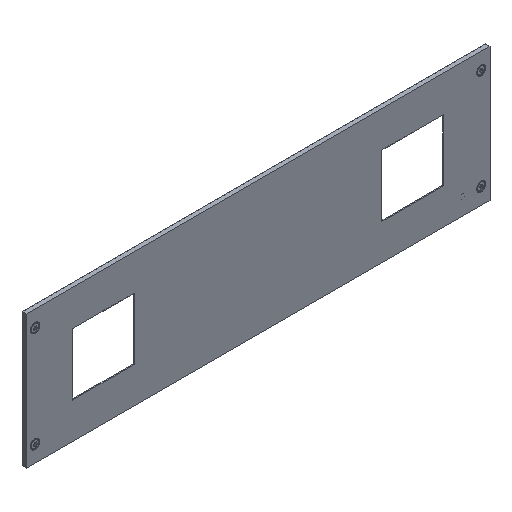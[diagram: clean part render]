
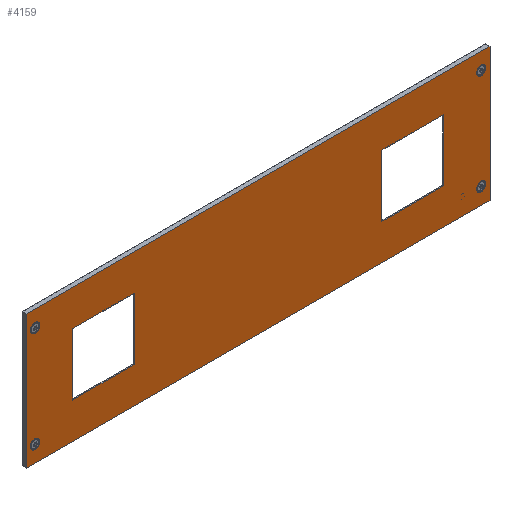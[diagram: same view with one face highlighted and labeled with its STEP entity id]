
A CAD part, isometric view. The second image highlights one B-rep face of the part: STEP entity #4159.
In plain terms, the highlighted planar face has unit normal (0, -1, 0).
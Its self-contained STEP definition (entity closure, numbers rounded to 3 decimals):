
#192=LINE('',#5749,#436);
#196=LINE('',#5758,#440);
#199=LINE('',#5764,#443);
#201=LINE('',#5767,#445);
#209=LINE('',#5811,#453);
#213=LINE('',#5819,#457);
#216=LINE('',#5825,#460);
#218=LINE('',#5828,#462);
#220=LINE('',#5835,#464);
#222=LINE('',#5839,#466);
#225=LINE('',#5845,#469);
#226=LINE('',#5847,#470);
#436=VECTOR('',#4825,1000.);
#440=VECTOR('',#4831,1000.);
#443=VECTOR('',#4836,1000.);
#445=VECTOR('',#4840,1000.);
#453=VECTOR('',#4890,1000.);
#457=VECTOR('',#4896,1000.);
#460=VECTOR('',#4901,1000.);
#462=VECTOR('',#4905,1000.);
#464=VECTOR('',#4913,1000.);
#466=VECTOR('',#4917,1000.);
#469=VECTOR('',#4922,1000.);
#470=VECTOR('',#4925,1000.);
#881=ORIENTED_EDGE('',*,*,#1558,.T.);
#882=ORIENTED_EDGE('',*,*,#1557,.T.);
#883=ORIENTED_EDGE('',*,*,#1554,.T.);
#884=ORIENTED_EDGE('',*,*,#1552,.T.);
#885=ORIENTED_EDGE('',*,*,#1559,.T.);
#886=ORIENTED_EDGE('',*,*,#1560,.T.);
#887=ORIENTED_EDGE('',*,*,#1561,.T.);
#888=ORIENTED_EDGE('',*,*,#1562,.T.);
#889=ORIENTED_EDGE('',*,*,#1547,.F.);
#890=ORIENTED_EDGE('',*,*,#1549,.F.);
#891=ORIENTED_EDGE('',*,*,#1540,.F.);
#892=ORIENTED_EDGE('',*,*,#1544,.F.);
#893=ORIENTED_EDGE('',*,*,#1518,.T.);
#894=ORIENTED_EDGE('',*,*,#1520,.T.);
#895=ORIENTED_EDGE('',*,*,#1511,.T.);
#896=ORIENTED_EDGE('',*,*,#1515,.T.);
#1511=EDGE_CURVE('',#1886,#1885,#192,.T.);
#1515=EDGE_CURVE('',#1885,#1889,#196,.T.);
#1518=EDGE_CURVE('',#1889,#1891,#199,.T.);
#1520=EDGE_CURVE('',#1891,#1886,#201,.T.);
#1540=EDGE_CURVE('',#1906,#1907,#209,.T.);
#1544=EDGE_CURVE('',#1909,#1906,#213,.T.);
#1547=EDGE_CURVE('',#1911,#1909,#216,.T.);
#1549=EDGE_CURVE('',#1907,#1911,#218,.T.);
#1552=EDGE_CURVE('',#1914,#1913,#220,.T.);
#1554=EDGE_CURVE('',#1915,#1914,#222,.T.);
#1557=EDGE_CURVE('',#1916,#1915,#225,.T.);
#1558=EDGE_CURVE('',#1913,#1916,#226,.T.);
#1559=EDGE_CURVE('',#1917,#1917,#2145,.T.);
#1560=EDGE_CURVE('',#1918,#1918,#2146,.T.);
#1561=EDGE_CURVE('',#1919,#1919,#2147,.T.);
#1562=EDGE_CURVE('',#1920,#1920,#2148,.T.);
#1885=VERTEX_POINT('',#5748);
#1886=VERTEX_POINT('',#5750);
#1889=VERTEX_POINT('',#5757);
#1891=VERTEX_POINT('',#5763);
#1906=VERTEX_POINT('',#5810);
#1907=VERTEX_POINT('',#5812);
#1909=VERTEX_POINT('',#5818);
#1911=VERTEX_POINT('',#5824);
#1913=VERTEX_POINT('',#5834);
#1914=VERTEX_POINT('',#5836);
#1915=VERTEX_POINT('',#5840);
#1916=VERTEX_POINT('',#5844);
#1917=VERTEX_POINT('',#5850);
#1918=VERTEX_POINT('',#5852);
#1919=VERTEX_POINT('',#5854);
#1920=VERTEX_POINT('',#5856);
#2145=CIRCLE('',#4389,6.932);
#2146=CIRCLE('',#4390,6.932);
#2147=CIRCLE('',#4391,6.932);
#2148=CIRCLE('',#4392,6.932);
#2333=EDGE_LOOP('',(#881,#882,#883,#884));
#2334=EDGE_LOOP('',(#885));
#2335=EDGE_LOOP('',(#886));
#2336=EDGE_LOOP('',(#887));
#2337=EDGE_LOOP('',(#888));
#2338=EDGE_LOOP('',(#889,#890,#891,#892));
#2339=EDGE_LOOP('',(#893,#894,#895,#896));
#2580=FACE_BOUND('',#2333,.T.);
#2581=FACE_BOUND('',#2334,.T.);
#2582=FACE_BOUND('',#2335,.T.);
#2583=FACE_BOUND('',#2336,.T.);
#2584=FACE_BOUND('',#2337,.T.);
#2585=FACE_BOUND('',#2338,.T.);
#2586=FACE_BOUND('',#2339,.T.);
#2788=PLANE('',#4388);
#4159=ADVANCED_FACE('',(#2580,#2581,#2582,#2583,#2584,#2585,#2586),#2788,
 .F.);
#4388=AXIS2_PLACEMENT_3D('',#5848,#4926,#4927);
#4389=AXIS2_PLACEMENT_3D('',#5849,#4928,#4929);
#4390=AXIS2_PLACEMENT_3D('',#5851,#4930,#4931);
#4391=AXIS2_PLACEMENT_3D('',#5853,#4932,#4933);
#4392=AXIS2_PLACEMENT_3D('',#5855,#4934,#4935);
#4825=DIRECTION('',(0.,0.,1.));
#4831=DIRECTION('',(1.,0.,0.));
#4836=DIRECTION('',(0.,0.,-1.));
#4840=DIRECTION('',(-1.,0.,0.));
#4890=DIRECTION('',(-1.,0.,0.));
#4896=DIRECTION('',(0.,0.,1.));
#4901=DIRECTION('',(1.,0.,0.));
#4905=DIRECTION('',(0.,0.,-1.));
#4913=DIRECTION('',(1.,0.,0.));
#4917=DIRECTION('',(0.,0.,-1.));
#4922=DIRECTION('',(-1.,0.,0.));
#4925=DIRECTION('',(0.,0.,1.));
#4926=DIRECTION('',(0.,1.,0.));
#4927=DIRECTION('',(0.,0.,1.));
#4928=DIRECTION('',(0.,1.,0.));
#4929=DIRECTION('',(0.,0.,1.));
#4930=DIRECTION('',(0.,1.,0.));
#4931=DIRECTION('',(0.,0.,1.));
#4932=DIRECTION('',(0.,1.,0.));
#4933=DIRECTION('',(0.,0.,1.));
#4934=DIRECTION('',(0.,1.,0.));
#4935=DIRECTION('',(0.,0.,1.));
#5748=CARTESIAN_POINT('',(184.5,0.,46.));
#5749=CARTESIAN_POINT('',(184.5,0.,-46.));
#5750=CARTESIAN_POINT('',(184.5,0.,-46.));
#5757=CARTESIAN_POINT('',(276.5,0.,46.));
#5758=CARTESIAN_POINT('',(184.5,0.,46.));
#5763=CARTESIAN_POINT('',(276.5,0.,-46.));
#5764=CARTESIAN_POINT('',(276.5,0.,46.));
#5767=CARTESIAN_POINT('',(276.5,0.,-46.));
#5810=CARTESIAN_POINT('',(-184.5,0.,46.));
#5811=CARTESIAN_POINT('',(-184.5,0.,46.));
#5812=CARTESIAN_POINT('',(-276.5,0.,46.));
#5818=CARTESIAN_POINT('',(-184.5,0.,-46.));
#5819=CARTESIAN_POINT('',(-184.5,0.,-46.));
#5824=CARTESIAN_POINT('',(-276.5,0.,-46.));
#5825=CARTESIAN_POINT('',(-276.5,0.,-46.));
#5828=CARTESIAN_POINT('',(-276.5,0.,46.));
#5834=CARTESIAN_POINT('',(345.5,0.,-99.5));
#5835=CARTESIAN_POINT('',(-2410.239,0.,-99.5));
#5836=CARTESIAN_POINT('',(-345.5,0.,-99.5));
#5839=CARTESIAN_POINT('',(-345.5,0.,688.239));
#5840=CARTESIAN_POINT('',(-345.5,0.,99.5));
#5844=CARTESIAN_POINT('',(345.5,0.,99.5));
#5845=CARTESIAN_POINT('',(2410.239,0.,99.5));
#5847=CARTESIAN_POINT('',(345.5,0.,-688.239));
#5848=CARTESIAN_POINT('',(0.,0.,0.));
#5849=CARTESIAN_POINT('',(-332.5,0.,75.));
#5850=CARTESIAN_POINT('',(-332.5,0.,81.932));
#5851=CARTESIAN_POINT('',(332.5,0.,75.));
#5852=CARTESIAN_POINT('',(332.5,0.,81.932));
#5853=CARTESIAN_POINT('',(-332.5,0.,-75.));
#5854=CARTESIAN_POINT('',(-332.5,0.,-68.068));
#5855=CARTESIAN_POINT('',(332.5,0.,-75.));
#5856=CARTESIAN_POINT('',(332.5,0.,-68.068));
